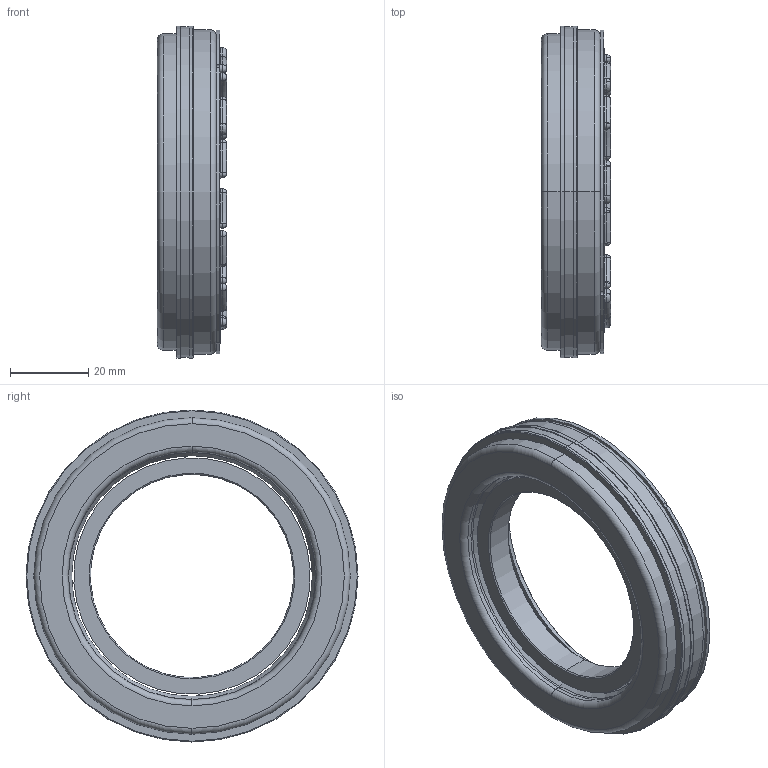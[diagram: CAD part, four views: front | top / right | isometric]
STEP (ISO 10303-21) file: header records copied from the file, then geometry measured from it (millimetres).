
FILE_DESCRIPTION (( 'STEP AP214' ), '1' );
FILE_NAME ('E-00113982.02_ILM85x04 SERVO KIT PCB.STEP', '2020-03-30T10:59:11', ( '' ), ( '' ), 'SwSTEP 2.0', 'SolidWorks 2018', '' );
FILE_SCHEMA (( 'AUTOMOTIVE_DESIGN' ));
Length unit declared in the file: millimetre
Products named in the file (4): E-00113982.02_ILM85x04 SERVO KIT PCB; E-00113980; E-00008197; E-00113975
Assembly tree (3 placements, depth 2):
  E-00113982.02_ILM85x04 SERVO KIT PCB
    E-00113980
    E-00113975
    E-00008197
Bounding box: 17.7 x 85 x 85 mm (x, y, z)
Volume: 42206.2 mm3; surface area: 21386.1 mm2
Topology: 3 solids, 3 shells, 1195 faces, 2621 edges, 1711 vertices
Faces by surface type: cylinder 613, plane 486, torus 88, cone 8
Entity records: 44479 total; most frequent: DIRECTION 6498, CARTESIAN_POINT 5533, ORIENTED_EDGE 5242, AXIS2_PLACEMENT_3D 2676, EDGE_CURVE 2621, VERTEX_POINT 1711, EDGE_LOOP 1486, CIRCLE 1475
